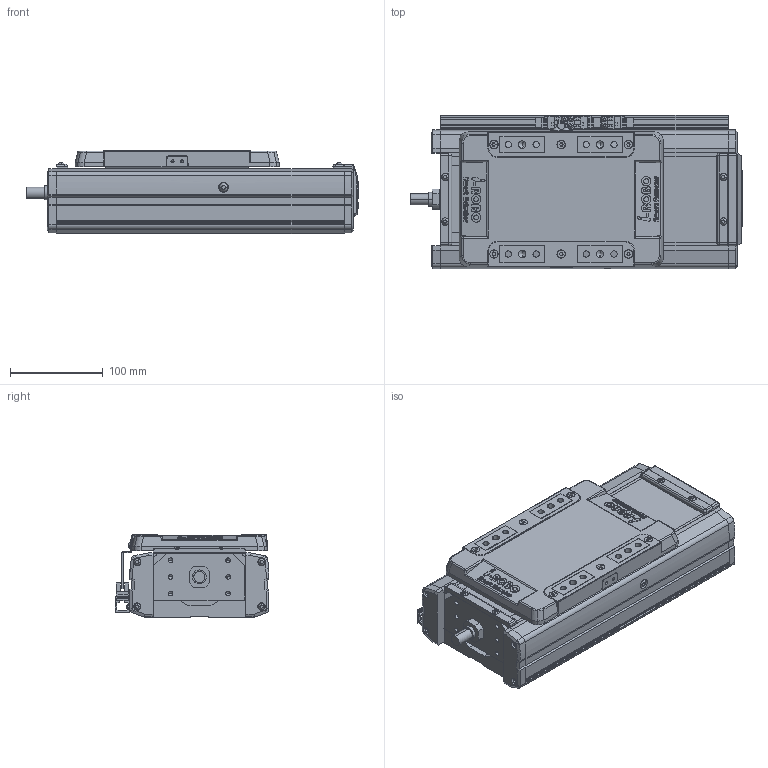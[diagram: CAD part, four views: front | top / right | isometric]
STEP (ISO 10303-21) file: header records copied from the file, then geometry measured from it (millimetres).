
FILE_DESCRIPTION(('STEP AP214'),'1');
FILE_NAME('Z:/Web/3D/SAN150/2013.04 (STP.)/SAN150ㅁㅁ-50+3SL.stp','2013-05-08T02:54:27',(' '),(' '),'Spatial InterOp 3D',' ',' ');
FILE_SCHEMA(('automotive_design'));
Length unit declared in the file: millimetre
Products named in the file (51): SLBL-SAN150; SLCV-SAN150; FHCS M4.0 x 8.0; BHCS M4.0 x 10.0; SFX-SAN150; RRCV-SAN150; FRBL-SAN150; Spacer; RN15; FRCV-SAN150; Screw 20; BASE-SAN150-000L ; SUS COVER; 스크루 : Round - M5.0 x 6.0; M3.0 x 6.0; SRL-16x17-360L; SGD-SAN150; EE-SX674; SBK-SX674-352; 스크루 : Round - M3.0 x 6.0
Bounding box: 358 x 166 x 90 mm (x, y, z)
Volume: 2581233.1 mm3; surface area: 529736.8 mm2
Topology: 51 solids, 51 shells, 2360 faces, 6095 edges, 3932 vertices
Faces by surface type: plane 1308, cylinder 741, cone 214, sphere 64, bspline 21, torus 12
Entity records: 93205 total; most frequent: CARTESIAN_POINT 14444, DIRECTION 12794, ORIENTED_EDGE 12022, EDGE_CURVE 6011, AXIS2_PLACEMENT_3D 4457, VERTEX_POINT 3932, LINE 3880, VECTOR 3880
